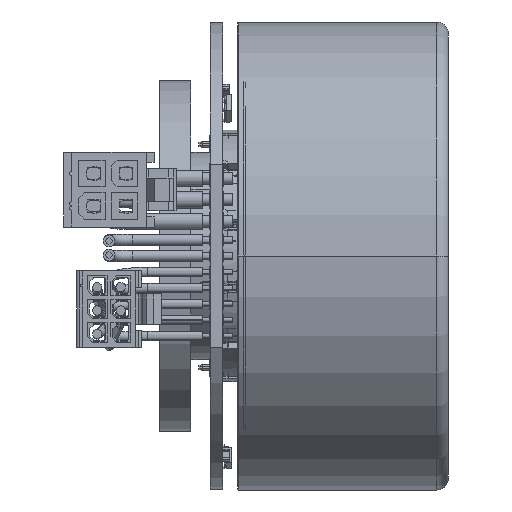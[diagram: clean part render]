
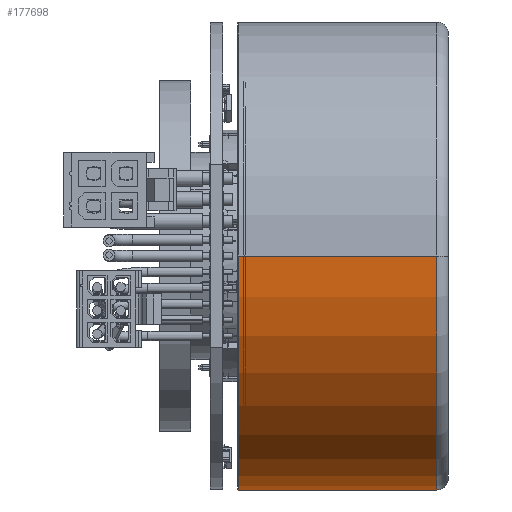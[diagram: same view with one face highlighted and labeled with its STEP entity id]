
A CAD part, front view. The second image highlights one B-rep face of the part: STEP entity #177698.
In plain terms, the highlighted cylindrical face has radius 30 mm (diameter 60 mm), a partial arc.
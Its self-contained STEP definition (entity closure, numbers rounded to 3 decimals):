
#176779=CARTESIAN_POINT('',(10.1,0.,0.));
#176780=DIRECTION('',(-1.,0.,0.));
#176781=DIRECTION('',(0.,1.,0.));
#176782=AXIS2_PLACEMENT_3D('',#176779,#176780,#176781);
#176787=DIRECTION('',(-1.,0.,0.));
#176788=VECTOR('',#176787,25.4);
#176789=CARTESIAN_POINT('',(35.5,-30.,0.));
#176790=LINE('',#176789,#176788);
#176794=CARTESIAN_POINT('',(35.5,0.,0.));
#176795=DIRECTION('',(-1.,0.,0.));
#176796=DIRECTION('',(0.,1.,0.));
#176797=AXIS2_PLACEMENT_3D('',#176794,#176795,#176796);
#176802=DIRECTION('',(-1.,0.,0.));
#176803=VECTOR('',#176802,25.4);
#176804=CARTESIAN_POINT('',(35.5,30.,0.));
#176805=LINE('',#176804,#176803);
#177533=CARTESIAN_POINT('',(35.5,30.,0.));
#177534=CARTESIAN_POINT('',(35.5,-30.,0.));
#177535=VERTEX_POINT('',#177533);
#177536=VERTEX_POINT('',#177534);
#177577=CARTESIAN_POINT('',(10.1,-30.,0.));
#177578=CARTESIAN_POINT('',(10.1,30.,0.));
#177579=VERTEX_POINT('',#177577);
#177580=VERTEX_POINT('',#177578);
#177684=CARTESIAN_POINT('',(-26.028,0.,0.));
#177685=DIRECTION('',(1.,0.,0.));
#177686=DIRECTION('',(0.,-1.,0.));
#177687=AXIS2_PLACEMENT_3D('',#177684,#177685,#177686);
#177688=CYLINDRICAL_SURFACE('',#177687,30.);
#177689=ORIENTED_EDGE('',*,*,#177671,.T.);
#177691=ORIENTED_EDGE('',*,*,#177690,.F.);
#177693=ORIENTED_EDGE('',*,*,#177692,.F.);
#177695=ORIENTED_EDGE('',*,*,#177694,.T.);
#177696=EDGE_LOOP('',(#177689,#177691,#177693,#177695));
#177697=FACE_OUTER_BOUND('',#177696,.F.);
#177698=ADVANCED_FACE('',(#177697),#177688,.T.);
#176783=CIRCLE('',#176782,30.);
#176798=CIRCLE('',#176797,30.);
#177671=EDGE_CURVE('',#177580,#177579,#176783,.T.);
#177690=EDGE_CURVE('',#177536,#177579,#176790,.T.);
#177692=EDGE_CURVE('',#177535,#177536,#176798,.T.);
#177694=EDGE_CURVE('',#177535,#177580,#176805,.T.);
